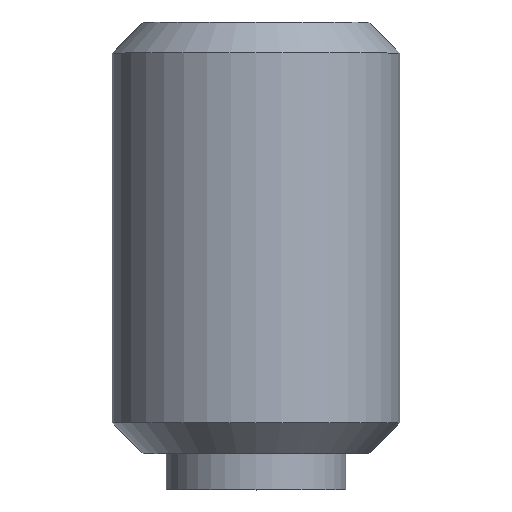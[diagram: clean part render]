
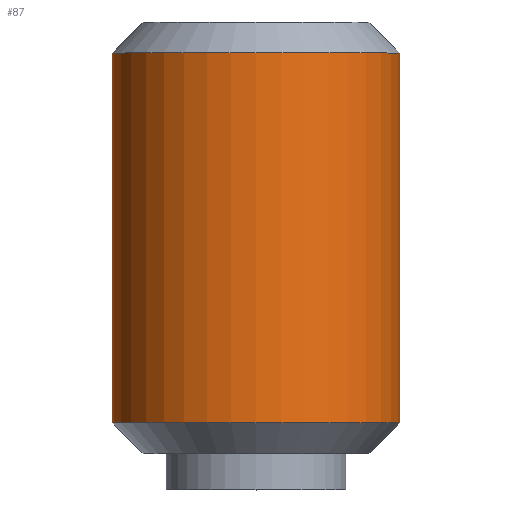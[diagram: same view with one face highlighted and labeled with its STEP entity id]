
A CAD part, top view. The second image highlights one B-rep face of the part: STEP entity #87.
In plain terms, the highlighted cylindrical face has radius 2 mm (diameter 4 mm), a full revolution.
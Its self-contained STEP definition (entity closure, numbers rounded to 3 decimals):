
#87 = ADVANCED_FACE( '', ( #118, #119 ), #120, .T. );
#118 = FACE_OUTER_BOUND( '', #152, .T. );
#119 = FACE_OUTER_BOUND( '', #153, .T. );
#120 = CYLINDRICAL_SURFACE( '', #154, 2. );
#152 = EDGE_LOOP( '', ( #238 ) );
#153 = EDGE_LOOP( '', ( #239 ) );
#154 = AXIS2_PLACEMENT_3D( '', #240, #241, #242 );
#238 = ORIENTED_EDGE( '', *, *, #270, .F. );
#239 = ORIENTED_EDGE( '', *, *, #271, .T. );
#240 = CARTESIAN_POINT( '', ( 0., 0., 0. ) );
#241 = DIRECTION( '', ( 0., 1., 0. ) );
#242 = DIRECTION( '', ( 0., 0., -1. ) );
#270 = EDGE_CURVE( '', #310, #310, #311, .T. );
#271 = EDGE_CURVE( '', #312, #312, #313, .T. );
#310 = VERTEX_POINT( '', #370 );
#311 = CIRCLE( '', #371, 2. );
#312 = VERTEX_POINT( '', #372 );
#313 = CIRCLE( '', #373, 2. );
#370 = CARTESIAN_POINT( '', ( 0., 0.93, -2. ) );
#371 = AXIS2_PLACEMENT_3D( '', #404, #405, #406 );
#372 = CARTESIAN_POINT( '', ( 0., 6.071, -2. ) );
#373 = AXIS2_PLACEMENT_3D( '', #407, #408, #409 );
#404 = CARTESIAN_POINT( '', ( 0., 0.93, 0. ) );
#405 = DIRECTION( '', ( 0., -1., 0. ) );
#406 = DIRECTION( '', ( 0., 0., -1. ) );
#407 = CARTESIAN_POINT( '', ( 0., 6.071, 0. ) );
#408 = DIRECTION( '', ( 0., -1., 0. ) );
#409 = DIRECTION( '', ( 0., 0., -1. ) );
